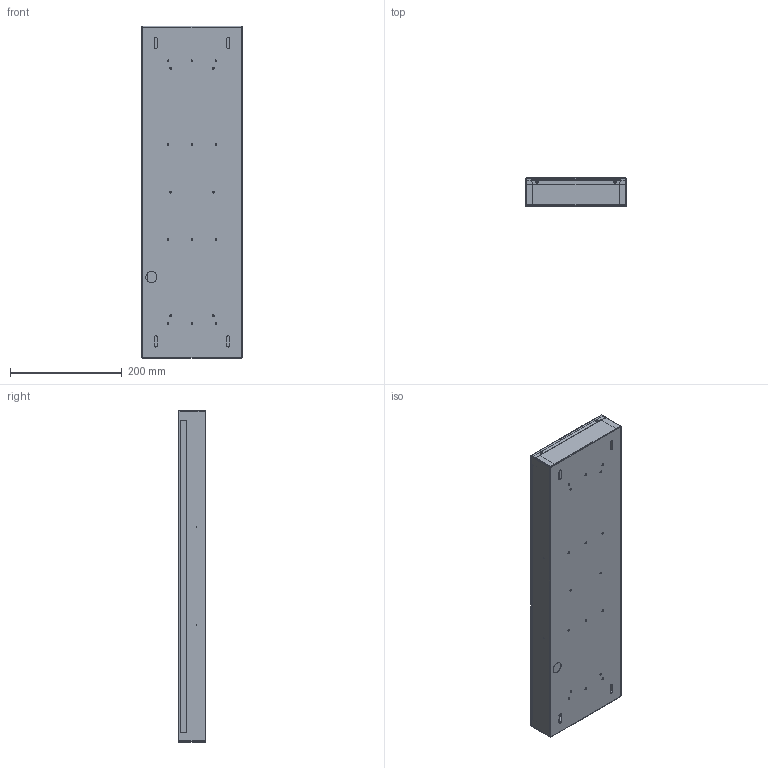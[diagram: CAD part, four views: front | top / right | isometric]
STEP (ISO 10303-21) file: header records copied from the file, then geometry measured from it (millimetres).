
FILE_DESCRIPTION(('STEP AP203'), '1');
FILE_NAME('ÄÊÏ001 05 000 Îôèñ Àðêî 595õ180 óíèâåðñàëüíûé 497-570', '', ('UNSPECIFIED'), ('UNSPECIFIED'), 'ASCON STEP Converter 1.6', 'ASCON Math Kernel', '');
FILE_SCHEMA(('CONFIG_CONTROL_DESIGN'));
Length unit declared in the file: millimetre
Products named in the file (8): ДКП001 05 000 Офис Арко 595х180 универсальный 497-570; ДКП001 05 001 Планка; ДКП001 150 000 Корпус в сборе; ДКП001 150 001 Корпус; ДКП001 150 003 Уголок; ДКП001 150 002 Уголок
Assembly tree (9 placements, depth 3):
  ДКП001 05 000 Офис Арко 595х180 универсальный 497-570
    ДКП001 05 001 Планка
    ДКП001 150 000 Корпус в сборе
      ДКП001 150 001 Корпус
      ДКП001 150 003 Уголок
      ДКП001 150 002 Уголок  x2
    (unnamed)  x2
    (unnamed)
Bounding box: 180 x 50 x 595.2 mm (x, y, z)
Volume: 447032.2 mm3; surface area: 667320.1 mm2
Topology: 8 solids, 8 shells, 299 faces, 715 edges, 440 vertices
Faces by surface type: plane 170, cylinder 91, bspline 28, cone 6, torus 4
Full cylindrical faces by diameter (mm): 1 x2, 2.2 x2, 2.5 x2, 3.5 x20, 4.4 x2, 20 x1
Entity records: 10801 total; most frequent: CARTESIAN_POINT 2549, DIRECTION 1190, ORIENTED_EDGE 1186, EDGE_CURVE 593, AXIS2_PLACEMENT_3D 411, VERTEX_POINT 377, LINE 368, VECTOR 368
